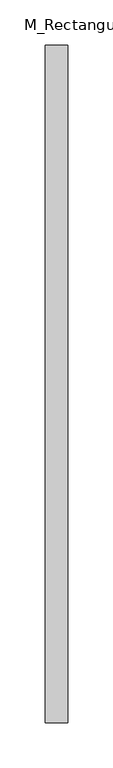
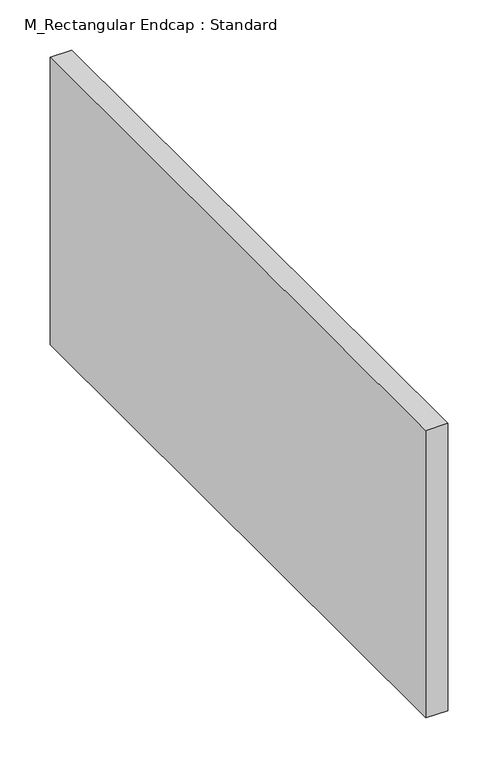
"""IFC4 building model written with IfcOpenShell, lengths in millimetres: duct fitting geometry, M_Rectangular Endcap : Standard."""

from ifc_helpers import new_model, si_unit, frame, origin, place, context, project, spatial, polyline, outline, extrude, source, transform, mapped, element, save


def m_rectangular_endcap_standard_e95da84c(model_context):
    return source(origin(), model_context, "Body", "SweptSolid", [
        extrude(outline(polyline([(0.0, -375.0), (0.0, 375.0), (25.0, 375.0), (25.0, -375.0), (0.0, -375.0)])), frame((0.0, 0.0, -175.0), z_axis=(0.0, 0.0, 1.0), x_axis=(1.0, 0.0, 0.0)), (0.0, 0.0, 1.0), 350.0),
        extrude(outline(polyline([(0.0, -375.0), (0.0, 375.0), (25.0, 375.0), (25.0, -375.0), (0.0, -375.0)])), frame((0.0, 0.0, -175.0), z_axis=(0.0, 0.0, 1.0), x_axis=(1.0, 0.0, 0.0)), (0.0, 0.0, 1.0), 350.0),
        extrude(outline(polyline([(0.0, -375.0), (0.0, 375.0), (25.0, 375.0), (25.0, -375.0), (0.0, -375.0)])), frame((0.0, 0.0, -175.0), z_axis=(0.0, 0.0, 1.0), x_axis=(1.0, 0.0, 0.0)), (0.0, 0.0, 1.0), 350.0),
    ])


if __name__ == "__main__":
    model = new_model("IFC4")
    model_context = context("Model", 3, world=origin())
    ifc_project = project(units=[si_unit("LENGTHUNIT", "METRE", prefix="MILLI")], contexts=[model_context])
    site = spatial("IfcSite", under=ifc_project)
    building = spatial("IfcBuilding", under=site)
    placement = place(None, origin())
    m_rectangular_endcap_standard_shape = m_rectangular_endcap_standard_e95da84c(model_context)
    element("IfcDuctFitting", 1, ObjectType="M_Rectangular Endcap : Standard", at=placement, inside=building, context=model_context, shape_type="MappedRepresentation", body=[
        mapped(m_rectangular_endcap_standard_shape, transform((0.0, 0.0, 0.0), x_axis=(1.0, 0.0, 0.0), y_axis=(0.0, 1.0, 0.0), z_axis=(0.0, 0.0, 1.0))),
    ])
    save(model, "model.ifc")
